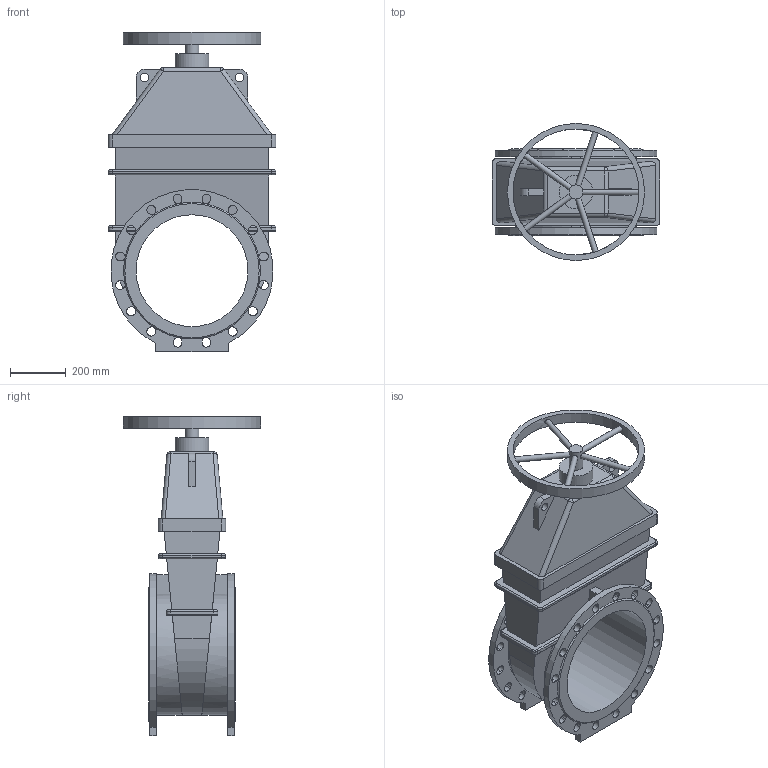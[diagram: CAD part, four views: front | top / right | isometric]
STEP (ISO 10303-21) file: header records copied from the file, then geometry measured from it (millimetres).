
FILE_DESCRIPTION(('STEP AP203'), '1');
FILE_NAME('Çàäâèæêà 47GV.Z DN400 PN10_PN16 ñ ìàõîâèêîì', '', ('UNSPECIFIED'), ('UNSPECIFIED'), 'ASCON STEP Converter 1.6', 'ASCON Math Kernel', '');
FILE_SCHEMA(('CONFIG_CONTROL_DESIGN'));
Length unit declared in the file: millimetre
Bounding box: 600 x 490 x 1142.5 mm (x, y, z)
Volume: 70841286.6 mm3; surface area: 2669096.3 mm2
Topology: 1 solids, 1 shells, 280 faces, 855 edges, 552 vertices
Faces by surface type: plane 135, cylinder 123, bspline 12, torus 8, cone 2
Full cylindrical faces by diameter (mm): 20 x5, 30 x2, 50 x1, 120 x1, 400 x1, 450 x1, 490 x1
Entity records: 15548 total; most frequent: CARTESIAN_POINT 5551, ORIENTED_EDGE 1672, DIRECTION 1570, EDGE_CURVE 836, AXIS2_PLACEMENT_3D 557, VERTEX_POINT 552, LINE 456, VECTOR 456
